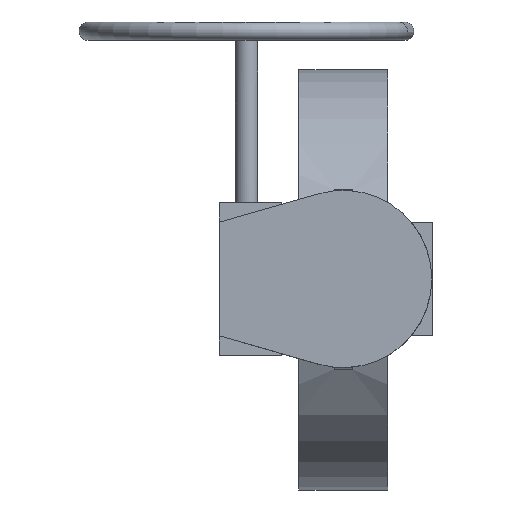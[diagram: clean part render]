
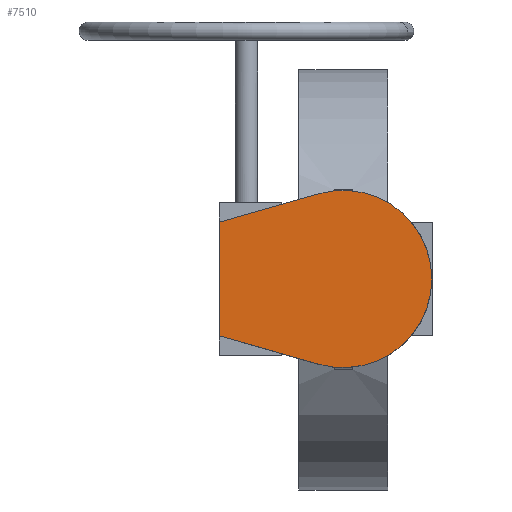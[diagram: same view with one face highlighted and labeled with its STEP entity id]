
A CAD part, top view. The second image highlights one B-rep face of the part: STEP entity #7510.
In plain terms, the highlighted planar face has unit normal (0, 0, 1).
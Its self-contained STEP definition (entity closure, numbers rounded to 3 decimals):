
#7510=ADVANCED_FACE('',(#13620),#13622,.T.);
#13620=FACE_BOUND('',#13621,.T.);
#13621=EDGE_LOOP('',(#18584,#18585,#18586,#18587));
#13622=PLANE('',#13623);
#13623=AXIS2_PLACEMENT_3D('',#13624,#13625,#13626);
#13624=CARTESIAN_POINT('',(0.,0.,417.));
#13625=DIRECTION('',(0.,0.,1.));
#13626=DIRECTION('',(0.,1.,0.));
#18584=ORIENTED_EDGE('',*,*,#21124,.T.);
#18585=ORIENTED_EDGE('',*,*,#21120,.T.);
#18586=ORIENTED_EDGE('',*,*,#21113,.T.);
#18587=ORIENTED_EDGE('',*,*,#21108,.T.);
#21108=EDGE_CURVE('',#25172,#25170,#25173,.T.);
#21113=EDGE_CURVE('',#25180,#25172,#25181,.T.);
#21120=EDGE_CURVE('',#25193,#25180,#25194,.T.);
#21124=EDGE_CURVE('',#25170,#25193,#25199,.T.);
#25170=VERTEX_POINT('',#36091);
#25172=VERTEX_POINT('',#36095);
#25173=LINE('',#36096,#36097);
#25180=VERTEX_POINT('',#36113);
#25181=LINE('',#36114,#36115);
#25193=VERTEX_POINT('',#36140);
#25194=LINE('',#36141,#36142);
#25199=CIRCLE('',#36154,78.);
#36091=CARTESIAN_POINT('',(-21.411,-75.004,417.));
#36095=CARTESIAN_POINT('',(-109.,-50.,417.));
#36096=CARTESIAN_POINT('',(-109.,-50.,417.));
#36097=VECTOR('',#36098,1.);
#36098=DIRECTION('',(0.962,-0.275,0.));
#36113=CARTESIAN_POINT('',(-109.,50.,417.));
#36114=CARTESIAN_POINT('',(-109.,50.,417.));
#36115=VECTOR('',#36116,1.);
#36116=DIRECTION('',(0.,-1.,0.));
#36140=CARTESIAN_POINT('',(-21.411,75.004,417.));
#36141=CARTESIAN_POINT('',(-21.411,75.004,417.));
#36142=VECTOR('',#36143,1.);
#36143=DIRECTION('',(-0.962,-0.275,0.));
#36154=AXIS2_PLACEMENT_3D('',#36155,#36156,#36157);
#36155=CARTESIAN_POINT('',(0.,0.,417.));
#36156=DIRECTION('',(0.,0.,1.));
#36157=DIRECTION('',(-0.275,-0.962,0.));
